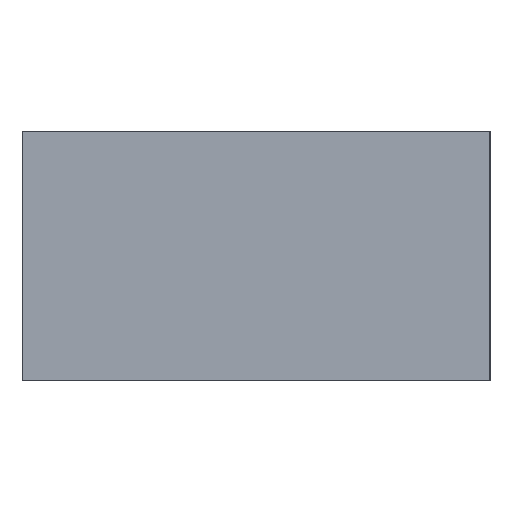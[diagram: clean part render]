
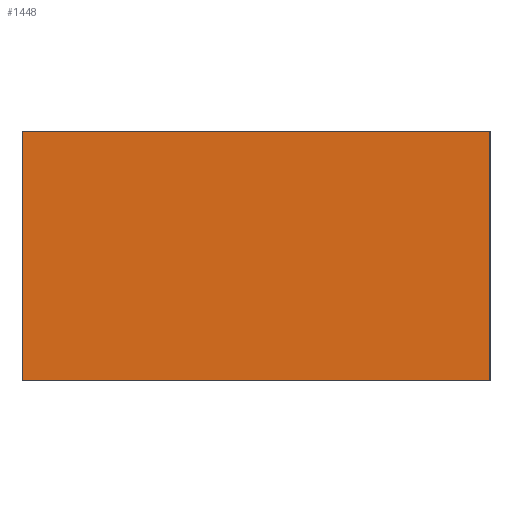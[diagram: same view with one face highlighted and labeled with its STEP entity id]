
A CAD part, front view. The second image highlights one B-rep face of the part: STEP entity #1448.
In plain terms, the highlighted planar face has unit normal (0, -1, 0).
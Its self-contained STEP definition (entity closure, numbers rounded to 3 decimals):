
#1244=CARTESIAN_POINT('',(0.0,-345.0,-80.));
#1245=VERTEX_POINT('',#1244);
#1252=CARTESIAN_POINT('',(0.0,-345.,80.));
#1253=VERTEX_POINT('',#1252);
#1254=CARTESIAN_POINT('',(0.0,-345.,-80.));
#1255=DIRECTION('',(0.0,0.0,1.0));
#1256=VECTOR('',#1255,160.);
#1257=LINE('',#1254,#1256);
#1258=EDGE_CURVE('',#1245,#1253,#1257,.T.);
#1365=CARTESIAN_POINT('',(300.0,-345.,80.));
#1366=VERTEX_POINT('',#1365);
#1375=CARTESIAN_POINT('',(0.0,-345.,80.));
#1376=DIRECTION('',(1.0,0.0,0.0));
#1377=VECTOR('',#1376,300.0);
#1378=LINE('',#1375,#1377);
#1379=EDGE_CURVE('',#1253,#1366,#1378,.T.);
#1413=CARTESIAN_POINT('',(300.0,-345.0,-80.));
#1414=VERTEX_POINT('',#1413);
#1421=CARTESIAN_POINT('',(0.0,-345.0,-80.));
#1422=DIRECTION('',(1.0,0.0,0.0));
#1423=VECTOR('',#1422,300.0);
#1424=LINE('',#1421,#1423);
#1425=EDGE_CURVE('',#1245,#1414,#1424,.T.);
#1432=CARTESIAN_POINT('',(0.0,-345.0,0.));
#1433=DIRECTION('',(0.0,-1.0,0.0));
#1434=DIRECTION('',(0.0,0.0,-1.0));
#1435=AXIS2_PLACEMENT_3D('',#1432,#1433,#1434);
#1436=PLANE('',#1435);
#1437=CARTESIAN_POINT('',(300.0,-345.,-80.));
#1438=DIRECTION('',(0.0,0.0,1.0));
#1439=VECTOR('',#1438,160.);
#1440=LINE('',#1437,#1439);
#1441=EDGE_CURVE('',#1414,#1366,#1440,.T.);
#1442=ORIENTED_EDGE('',*,*,#1441,.T.);
#1443=ORIENTED_EDGE('',*,*,#1379,.F.);
#1444=ORIENTED_EDGE('',*,*,#1258,.F.);
#1445=ORIENTED_EDGE('',*,*,#1425,.T.);
#1446=EDGE_LOOP('',(#1442,#1443,#1444,#1445));
#1447=FACE_OUTER_BOUND('',#1446,.T.);
#1448=ADVANCED_FACE('',(#1447),#1436,.T.);
